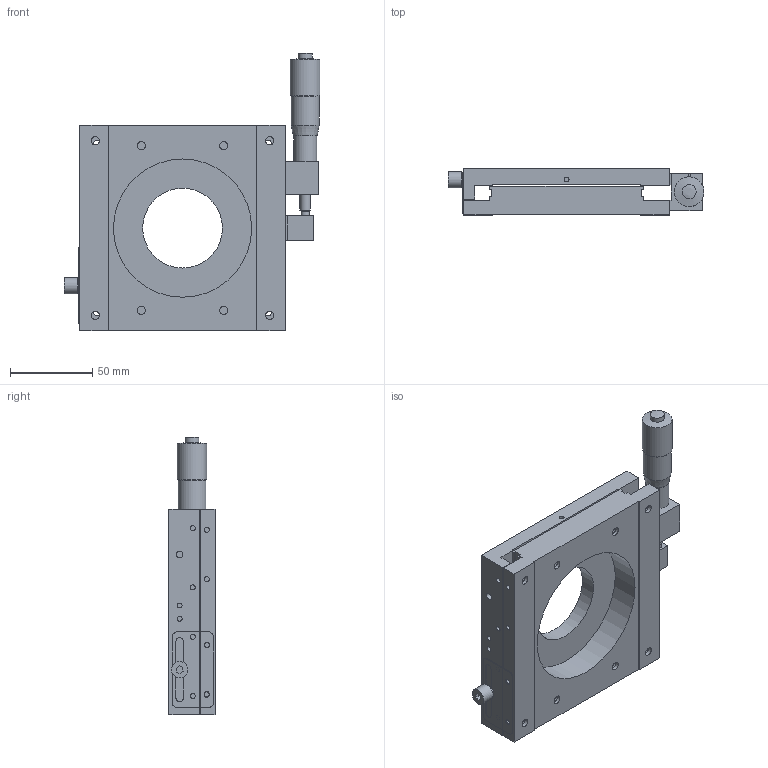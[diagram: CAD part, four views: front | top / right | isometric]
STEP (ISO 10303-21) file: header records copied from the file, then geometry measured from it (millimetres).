
FILE_DESCRIPTION (( 'STEP AP203' ), '1' );
FILE_NAME ('M1-127-R1_LAYOUT(20160422).STEP', '2016-04-22T05:52:21', ( '' ), ( '' ), 'SwSTEP 2.0', 'SolidWorks 2015', '' );
FILE_SCHEMA (( 'CONFIG_CONTROL_DESIGN' ));
Length unit declared in the file: millimetre
Products named in the file (9): MICRO HEAD; PIN BLOCK; MA-005-004; M1-127-R1_LAYOUT(20160422); BASE PLATE; CARRIAGE PLATE; BRACKET; CLAMP BOLT; MICRO HEAD BLOCK
Assembly tree (8 placements, depth 2):
  M1-127-R1_LAYOUT(20160422)
    BASE PLATE
    CARRIAGE PLATE
    BRACKET
    CLAMP BOLT
    MICRO HEAD BLOCK
    MICRO HEAD
    PIN BLOCK
    MA-005-004
Bounding box: 155.47 x 28 x 168.87 mm (x, y, z)
Volume: 294957.9 mm3; surface area: 88414.3 mm2
Topology: 8 solids, 8 shells, 251 faces, 504 edges, 336 vertices
Faces by surface type: plane 138, cylinder 107, cone 4, sphere 2
Full cylindrical faces by diameter (mm): 2 x4, 3 x28, 3.4 x7, 4 x13, 4.5 x8, 5 x9, 6 x5, 6.35 x1, 8 x16, 8.5 x1, 9 x1, 10 x2, 14 x1, 17 x1, 18 x1, 48.5 x1, 84 x1
Entity records: 7099 total; most frequent: DIRECTION 1134, CARTESIAN_POINT 986, ORIENTED_EDGE 788, EDGE_LOOP 482, AXIS2_PLACEMENT_3D 478, EDGE_CURVE 394, FACE_OUTER_BOUND 351, VERTEX_POINT 330
